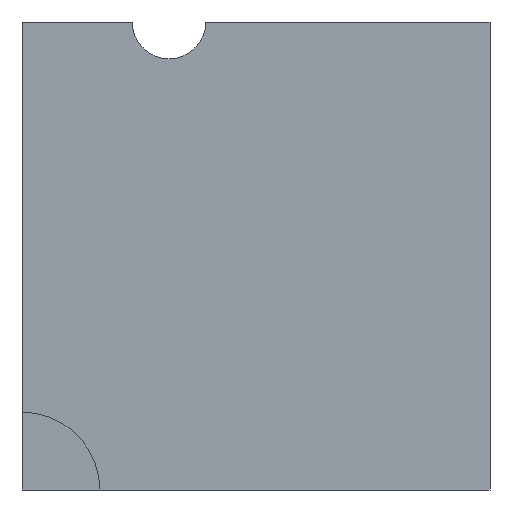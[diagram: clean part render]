
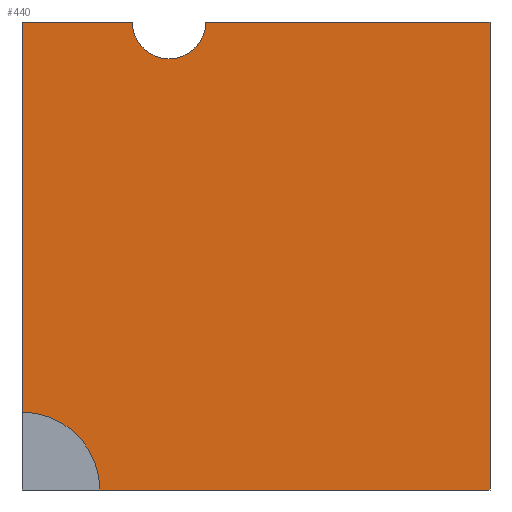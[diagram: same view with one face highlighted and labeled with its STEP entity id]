
A CAD part, front view. The second image highlights one B-rep face of the part: STEP entity #440.
In plain terms, the highlighted planar face has unit normal (0, -1, 0).
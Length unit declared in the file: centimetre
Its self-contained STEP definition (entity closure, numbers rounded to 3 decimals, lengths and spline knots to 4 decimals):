
#8 = ORIENTED_EDGE ( 'NONE', *, *, #627, .T. ) ;
#11 = EDGE_CURVE ( 'NONE', #300, #535, #952, .T. ) ;
#20 = CARTESIAN_POINT ( 'NONE',  ( 1000., 0., 1000. ) ) ;
#40 = ORIENTED_EDGE ( 'NONE', *, *, #267, .F. ) ;
#65 = VERTEX_POINT ( 'NONE', #560 ) ;
#81 = ORIENTED_EDGE ( 'NONE', *, *, #850, .T. ) ;
#145 = VERTEX_POINT ( 'NONE', #573 ) ;
#157 = CARTESIAN_POINT ( 'NONE',  ( 1000., 0., 1000. ) ) ;
#200 = CARTESIAN_POINT ( 'NONE',  ( 314.1045, 0., 1000. ) ) ;
#206 = LINE ( 'NONE', #459, #655 ) ;
#210 = VERTEX_POINT ( 'NONE', #389 ) ;
#223 = VECTOR ( 'NONE', #517, 100. ) ;
#227 = DIRECTION ( 'NONE',  ( 0., 0., -1. ) ) ;
#237 = AXIS2_PLACEMENT_3D ( 'NONE', #200, #360, #1110 ) ;
#239 = CIRCLE ( 'NONE', #478, 78.7125 ) ;
#261 = DIRECTION ( 'NONE',  ( 1., 0., 0. ) ) ;
#267 = EDGE_CURVE ( 'NONE', #210, #300, #239, .T. ) ;
#290 = DIRECTION ( 'NONE',  ( 0., 0., 1. ) ) ;
#300 = VERTEX_POINT ( 'NONE', #966 ) ;
#324 = CARTESIAN_POINT ( 'NONE',  ( 0., 0., 0. ) ) ;
#329 = CARTESIAN_POINT ( 'NONE',  ( 0., 0., 1000. ) ) ;
#336 = CARTESIAN_POINT ( 'NONE',  ( 0., 0., 1000. ) ) ;
#344 = EDGE_CURVE ( 'NONE', #535, #802, #521, .T. ) ;
#359 = PLANE ( 'NONE',  #1010 ) ;
#360 = DIRECTION ( 'NONE',  ( 0., -1., 0. ) ) ;
#365 = VECTOR ( 'NONE', #964, 100. ) ;
#384 = VECTOR ( 'NONE', #609, 100. ) ;
#389 = CARTESIAN_POINT ( 'NONE',  ( 235.392, 0., 1000. ) ) ;
#391 = DIRECTION ( 'NONE',  ( 0., 1., 0. ) ) ;
#407 = EDGE_LOOP ( 'NONE', ( #1097, #605, #40, #999, #8, #1056, #81, #674 ) ) ;
#440 = ADVANCED_FACE ( 'NONE', ( #1086 ), #359, .F. ) ;
#454 = VERTEX_POINT ( 'NONE', #1007 ) ;
#459 = CARTESIAN_POINT ( 'NONE',  ( 0., 0., 0. ) ) ;
#478 = AXIS2_PLACEMENT_3D ( 'NONE', #1128, #660, #227 ) ;
#494 = DIRECTION ( 'NONE',  ( 0., 0., -1. ) ) ;
#517 = DIRECTION ( 'NONE',  ( 0., 0., -1. ) ) ;
#521 = LINE ( 'NONE', #971, #384 ) ;
#535 = VERTEX_POINT ( 'NONE', #915 ) ;
#555 = AXIS2_PLACEMENT_3D ( 'NONE', #324, #955, #494 ) ;
#560 = CARTESIAN_POINT ( 'NONE',  ( 0., 0., 166.3953 ) ) ;
#573 = CARTESIAN_POINT ( 'NONE',  ( 0., 0., 1000. ) ) ;
#574 = VERTEX_POINT ( 'NONE', #1138 ) ;
#605 = ORIENTED_EDGE ( 'NONE', *, *, #11, .F. ) ;
#607 = LINE ( 'NONE', #157, #223 ) ;
#609 = DIRECTION ( 'NONE',  ( 1., 0., 0. ) ) ;
#612 = EDGE_CURVE ( 'NONE', #574, #65, #1072, .T. ) ;
#627 = EDGE_CURVE ( 'NONE', #145, #65, #1144, .T. ) ;
#655 = VECTOR ( 'NONE', #1098, 100. ) ;
#660 = DIRECTION ( 'NONE',  ( 0., -1., 0. ) ) ;
#661 = EDGE_CURVE ( 'NONE', #802, #454, #607, .T. ) ;
#674 = ORIENTED_EDGE ( 'NONE', *, *, #661, .F. ) ;
#793 = LINE ( 'NONE', #336, #920 ) ;
#802 = VERTEX_POINT ( 'NONE', #20 ) ;
#850 = EDGE_CURVE ( 'NONE', #574, #454, #206, .T. ) ;
#915 = CARTESIAN_POINT ( 'NONE',  ( 392.8169, 0., 1000. ) ) ;
#920 = VECTOR ( 'NONE', #261, 100. ) ;
#934 = CARTESIAN_POINT ( 'NONE',  ( 0., 0., 1000. ) ) ;
#952 = CIRCLE ( 'NONE', #237, 78.7125 ) ;
#955 = DIRECTION ( 'NONE',  ( 0., -1., 0. ) ) ;
#964 = DIRECTION ( 'NONE',  ( 0., 0., -1. ) ) ;
#966 = CARTESIAN_POINT ( 'NONE',  ( 314.1045, 0., 921.2875 ) ) ;
#971 = CARTESIAN_POINT ( 'NONE',  ( 0., 0., 1000. ) ) ;
#999 = ORIENTED_EDGE ( 'NONE', *, *, #1145, .F. ) ;
#1007 = CARTESIAN_POINT ( 'NONE',  ( 1000., 0., 0. ) ) ;
#1010 = AXIS2_PLACEMENT_3D ( 'NONE', #934, #391, #290 ) ;
#1056 = ORIENTED_EDGE ( 'NONE', *, *, #612, .F. ) ;
#1072 = CIRCLE ( 'NONE', #555, 166.3953 ) ;
#1086 = FACE_OUTER_BOUND ( 'NONE', #407, .T. ) ;
#1097 = ORIENTED_EDGE ( 'NONE', *, *, #344, .F. ) ;
#1098 = DIRECTION ( 'NONE',  ( 1., 0., 0. ) ) ;
#1110 = DIRECTION ( 'NONE',  ( 0., 0., -1. ) ) ;
#1128 = CARTESIAN_POINT ( 'NONE',  ( 314.1045, 0., 1000. ) ) ;
#1138 = CARTESIAN_POINT ( 'NONE',  ( 166.3953, 0., 0. ) ) ;
#1144 = LINE ( 'NONE', #329, #365 ) ;
#1145 = EDGE_CURVE ( 'NONE', #145, #210, #793, .T. ) ;
